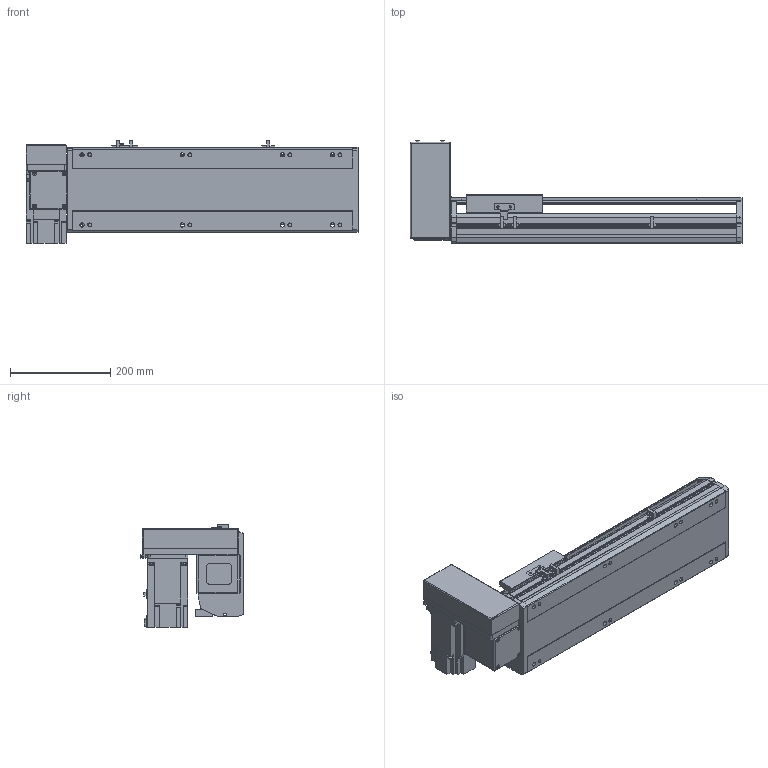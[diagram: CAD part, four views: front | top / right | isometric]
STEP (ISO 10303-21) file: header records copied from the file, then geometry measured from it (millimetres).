
FILE_DESCRIPTION( ( 'STEP AP214' ), '1' );
FILE_NAME( 'x:/temp/worker_5/temp/exporttempdir_3988_107_83XRq/format_0/PBS170-P40-S300-RU-T75-C1-N(0).stp', '2022-06-08T05:55:25', ( 'License CC BY-ND 4.0' ), ( 'CADENAS' ), ' ', 'PARTsolutions', ' ' );
FILE_SCHEMA( ( 'AUTOMOTIVE_DESIGN { 1 0 10303 214 1 1 1 1 }' ) );
Length unit declared in the file: millimetre
Products named in the file (7): PBS170-P40-S300-RU-T75-C1-N(0); _PBS170-S300()_body; _PBS170T-RU_motors; _T75-p1; _PBS170_sliser; _PBS170_plant; _PBS170_sensor
Assembly tree (8 placements, depth 2):
  PBS170-P40-S300-RU-T75-C1-N(0)
    _PBS170-S300()_body
    _PBS170T-RU_motors
    _T75-p1
    _PBS170_sliser
    _PBS170_plant
    _PBS170_sensor  x3
Bounding box: 663 x 206 x 205.3 mm (x, y, z)
Volume: 6001633.9 mm3; surface area: 838828 mm2
Topology: 8 solids, 8 shells, 1018 faces, 2715 edges, 1770 vertices
Faces by surface type: plane 663, cylinder 307, cone 38, sphere 8, torus 2
Full cylindrical faces by diameter (mm): 3.242 x4, 4 x2, 4.4 x4, 4.5 x6, 4.917 x4, 6 x9, 6.647 x16, 7 x2, 7.5 x4, 8 x8, 8.5 x8, 10 x4, 10.5 x8, 11 x2, 30 x2, 40 x1, 70 x1
Entity records: 37172 total; most frequent: CARTESIAN_POINT 5549, DIRECTION 5020, ORIENTED_EDGE 4788, EDGE_CURVE 2394, AXIS2_PLACEMENT_3D 1717, VERTEX_POINT 1634, LINE 1586, VECTOR 1586
